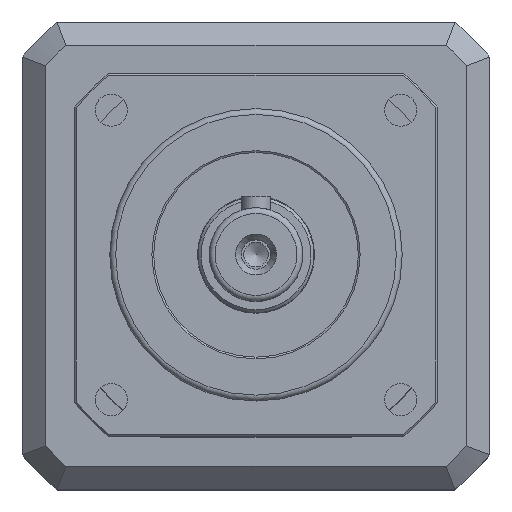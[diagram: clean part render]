
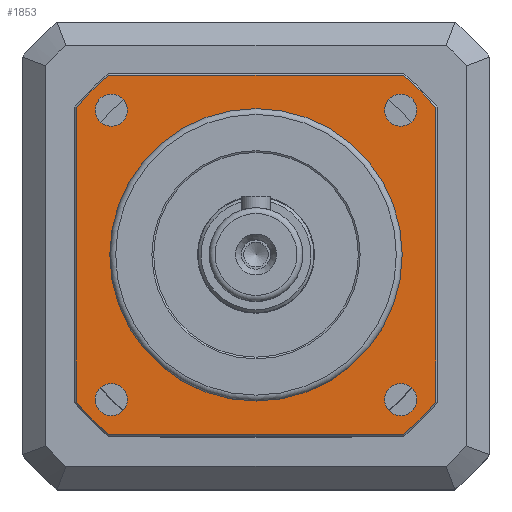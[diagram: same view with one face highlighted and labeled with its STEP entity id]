
A CAD part, top view. The second image highlights one B-rep face of the part: STEP entity #1853.
In plain terms, the highlighted planar face has unit normal (0, 0, 1).
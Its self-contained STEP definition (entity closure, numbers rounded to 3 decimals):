
#347=CARTESIAN_POINT('',(-21.999,24.749,0.0));
#348=VERTEX_POINT('',#347);
#349=CARTESIAN_POINT('',(-24.749,24.749,0.0));
#350=DIRECTION('',(0.0,0.0,1.0));
#351=DIRECTION('',(1.0,0.0,0.0));
#352=AXIS2_PLACEMENT_3D('',#349,#350,#351);
#353=CIRCLE('',#352,2.75);
#354=EDGE_CURVE('',#348,#348,#353,.T.);
#375=CARTESIAN_POINT('',(-21.999,-24.749,0.0));
#376=VERTEX_POINT('',#375);
#377=CARTESIAN_POINT('',(-24.749,-24.749,0.0));
#378=DIRECTION('',(0.0,0.0,1.0));
#379=DIRECTION('',(1.0,0.0,0.0));
#380=AXIS2_PLACEMENT_3D('',#377,#378,#379);
#381=CIRCLE('',#380,2.75);
#382=EDGE_CURVE('',#376,#376,#381,.T.);
#403=CARTESIAN_POINT('',(27.499,-24.749,0.0));
#404=VERTEX_POINT('',#403);
#405=CARTESIAN_POINT('',(24.749,-24.749,0.0));
#406=DIRECTION('',(0.0,0.0,1.0));
#407=DIRECTION('',(1.0,0.0,0.0));
#408=AXIS2_PLACEMENT_3D('',#405,#406,#407);
#409=CIRCLE('',#408,2.75);
#410=EDGE_CURVE('',#404,#404,#409,.T.);
#431=CARTESIAN_POINT('',(27.499,24.749,0.0));
#432=VERTEX_POINT('',#431);
#433=CARTESIAN_POINT('',(24.749,24.749,0.0));
#434=DIRECTION('',(0.0,0.0,1.0));
#435=DIRECTION('',(1.0,0.0,0.0));
#436=AXIS2_PLACEMENT_3D('',#433,#434,#435);
#437=CIRCLE('',#436,2.75);
#438=EDGE_CURVE('',#432,#432,#437,.T.);
#451=CARTESIAN_POINT('',(-25.0,0.0,0.0));
#452=VERTEX_POINT('',#451);
#453=CARTESIAN_POINT('',(0.0,0.0,0.0));
#454=DIRECTION('',(0.0,0.0,1.0));
#455=DIRECTION('',(1.0,0.0,0.0));
#456=AXIS2_PLACEMENT_3D('',#453,#454,#455);
#457=CIRCLE('',#456,25.0);
#458=EDGE_CURVE('',#452,#452,#457,.T.);
#1763=CARTESIAN_POINT('',(31.,-31.0,0.0));
#1764=DIRECTION('',(0.0,0.0,1.0));
#1765=DIRECTION('',(1.0,0.0,0.0));
#1766=AXIS2_PLACEMENT_3D('',#1763,#1764,#1765);
#1767=PLANE('',#1766);
#1768=CARTESIAN_POINT('',(-25.171,-30.7,0.0));
#1769=VERTEX_POINT('',#1768);
#1770=CARTESIAN_POINT('',(25.171,-30.7,0.0));
#1771=VERTEX_POINT('',#1770);
#1772=CARTESIAN_POINT('',(-25.171,-30.7,0.0));
#1773=DIRECTION('',(1.0,0.0,0.0));
#1774=VECTOR('',#1773,50.343);
#1775=LINE('',#1772,#1774);
#1776=EDGE_CURVE('',#1769,#1771,#1775,.T.);
#1777=ORIENTED_EDGE('',*,*,#1776,.T.);
#1778=CARTESIAN_POINT('',(30.7,-25.171,0.0));
#1779=VERTEX_POINT('',#1778);
#1780=CARTESIAN_POINT('',(0.0,0.0,0.0));
#1781=DIRECTION('',(0.0,0.0,1.0));
#1782=DIRECTION('',(1.0,0.0,0.0));
#1783=AXIS2_PLACEMENT_3D('',#1780,#1781,#1782);
#1784=CIRCLE('',#1783,39.7);
#1785=EDGE_CURVE('',#1771,#1779,#1784,.T.);
#1786=ORIENTED_EDGE('',*,*,#1785,.T.);
#1787=CARTESIAN_POINT('',(30.7,25.171,0.0));
#1788=VERTEX_POINT('',#1787);
#1789=CARTESIAN_POINT('',(30.7,-25.171,0.0));
#1790=DIRECTION('',(0.0,1.0,0.0));
#1791=VECTOR('',#1790,50.343);
#1792=LINE('',#1789,#1791);
#1793=EDGE_CURVE('',#1779,#1788,#1792,.T.);
#1794=ORIENTED_EDGE('',*,*,#1793,.T.);
#1795=CARTESIAN_POINT('',(25.171,30.7,0.0));
#1796=VERTEX_POINT('',#1795);
#1797=CARTESIAN_POINT('',(0.0,0.0,0.0));
#1798=DIRECTION('',(0.0,0.0,1.0));
#1799=DIRECTION('',(1.0,0.0,0.0));
#1800=AXIS2_PLACEMENT_3D('',#1797,#1798,#1799);
#1801=CIRCLE('',#1800,39.7);
#1802=EDGE_CURVE('',#1788,#1796,#1801,.T.);
#1803=ORIENTED_EDGE('',*,*,#1802,.T.);
#1804=CARTESIAN_POINT('',(-25.171,30.7,0.0));
#1805=VERTEX_POINT('',#1804);
#1806=CARTESIAN_POINT('',(25.171,30.7,0.0));
#1807=DIRECTION('',(-1.0,0.0,0.0));
#1808=VECTOR('',#1807,50.343);
#1809=LINE('',#1806,#1808);
#1810=EDGE_CURVE('',#1796,#1805,#1809,.T.);
#1811=ORIENTED_EDGE('',*,*,#1810,.T.);
#1812=CARTESIAN_POINT('',(-30.7,25.171,0.0));
#1813=VERTEX_POINT('',#1812);
#1814=CARTESIAN_POINT('',(0.0,0.0,0.0));
#1815=DIRECTION('',(0.0,0.0,1.0));
#1816=DIRECTION('',(1.0,0.0,0.0));
#1817=AXIS2_PLACEMENT_3D('',#1814,#1815,#1816);
#1818=CIRCLE('',#1817,39.7);
#1819=EDGE_CURVE('',#1805,#1813,#1818,.T.);
#1820=ORIENTED_EDGE('',*,*,#1819,.T.);
#1821=CARTESIAN_POINT('',(-30.7,-25.171,0.0));
#1822=VERTEX_POINT('',#1821);
#1823=CARTESIAN_POINT('',(-30.7,25.171,0.0));
#1824=DIRECTION('',(0.0,-1.0,0.0));
#1825=VECTOR('',#1824,50.343);
#1826=LINE('',#1823,#1825);
#1827=EDGE_CURVE('',#1813,#1822,#1826,.T.);
#1828=ORIENTED_EDGE('',*,*,#1827,.T.);
#1829=CARTESIAN_POINT('',(0.0,0.0,0.0));
#1830=DIRECTION('',(0.0,0.0,1.0));
#1831=DIRECTION('',(1.0,0.0,0.0));
#1832=AXIS2_PLACEMENT_3D('',#1829,#1830,#1831);
#1833=CIRCLE('',#1832,39.7);
#1834=EDGE_CURVE('',#1822,#1769,#1833,.T.);
#1835=ORIENTED_EDGE('',*,*,#1834,.T.);
#1836=EDGE_LOOP('',(#1777,#1786,#1794,#1803,#1811,#1820,#1828,#1835));
#1837=FACE_OUTER_BOUND('',#1836,.T.);
#1838=ORIENTED_EDGE('',*,*,#354,.F.);
#1839=EDGE_LOOP('',(#1838));
#1840=FACE_BOUND('',#1839,.T.);
#1841=ORIENTED_EDGE('',*,*,#382,.F.);
#1842=EDGE_LOOP('',(#1841));
#1843=FACE_BOUND('',#1842,.T.);
#1844=ORIENTED_EDGE('',*,*,#410,.F.);
#1845=EDGE_LOOP('',(#1844));
#1846=FACE_BOUND('',#1845,.T.);
#1847=ORIENTED_EDGE('',*,*,#438,.F.);
#1848=EDGE_LOOP('',(#1847));
#1849=FACE_BOUND('',#1848,.T.);
#1850=ORIENTED_EDGE('',*,*,#458,.F.);
#1851=EDGE_LOOP('',(#1850));
#1852=FACE_BOUND('',#1851,.T.);
#1853=ADVANCED_FACE('',(#1837,#1840,#1843,#1846,#1849,#1852),#1767,.T.);
